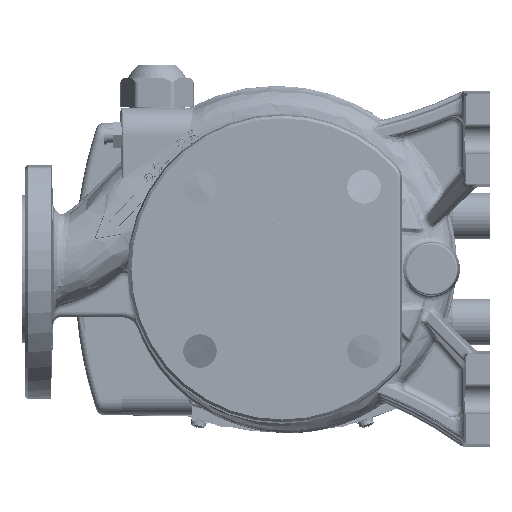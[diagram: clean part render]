
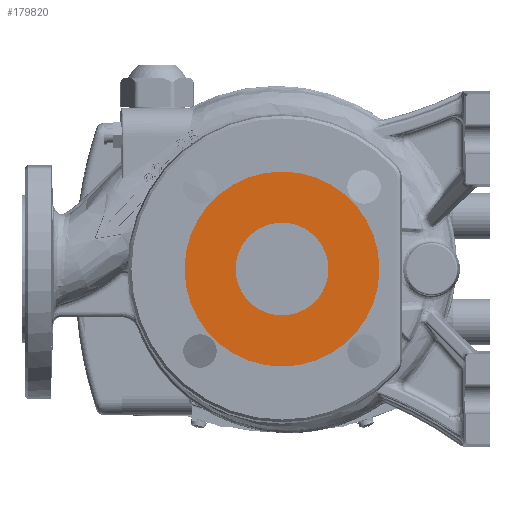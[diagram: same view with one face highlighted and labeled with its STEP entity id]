
A CAD part, left-side view. The second image highlights one B-rep face of the part: STEP entity #179820.
In plain terms, the highlighted planar face has unit normal (-1, 0, 0).
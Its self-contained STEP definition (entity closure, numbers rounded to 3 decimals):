
#1936 = DIRECTION ( 'NONE',  ( 0., 0., -1. ) ) ;
#11684 = DIRECTION ( 'NONE',  ( 1., 0., 0. ) ) ;
#12363 = CARTESIAN_POINT ( 'NONE',  ( -259.764, 139.201, 0. ) ) ;
#26034 = VERTEX_POINT ( 'NONE', #166255 ) ;
#27395 = CARTESIAN_POINT ( 'NONE',  ( -259.764, 139.201, -52.5 ) ) ;
#31444 = DIRECTION ( 'NONE',  ( 1., 0., 0. ) ) ;
#37086 = CARTESIAN_POINT ( 'NONE',  ( -259.764, 139.201, -25. ) ) ;
#38512 = VERTEX_POINT ( 'NONE', #27395 ) ;
#46571 = AXIS2_PLACEMENT_3D ( 'NONE', #186749, #31444, #1936 ) ;
#47027 = AXIS2_PLACEMENT_3D ( 'NONE', #148823, #11684, #80776 ) ;
#53952 = EDGE_CURVE ( 'NONE', #118200, #127968, #190754, .T. ) ;
#56088 = ORIENTED_EDGE ( 'NONE', *, *, #179785, .F. ) ;
#59057 = CARTESIAN_POINT ( 'NONE',  ( -259.764, 139.201, 0. ) ) ;
#62714 = EDGE_LOOP ( 'NONE', ( #143424, #56088 ) ) ;
#62771 = CARTESIAN_POINT ( 'NONE',  ( -259.764, 139.201, 25. ) ) ;
#80776 = DIRECTION ( 'NONE',  ( 0., 0., 1. ) ) ;
#81447 = DIRECTION ( 'NONE',  ( 0., 0., 1. ) ) ;
#88182 = EDGE_LOOP ( 'NONE', ( #98312, #125263 ) ) ;
#90822 = DIRECTION ( 'NONE',  ( 0., 0., -1. ) ) ;
#95314 = AXIS2_PLACEMENT_3D ( 'NONE', #165399, #97353, #81447 ) ;
#96245 = FACE_BOUND ( 'NONE', #88182, .T. ) ;
#97353 = DIRECTION ( 'NONE',  ( -1., 0., 0. ) ) ;
#98312 = ORIENTED_EDGE ( 'NONE', *, *, #171185, .T. ) ;
#98866 = CIRCLE ( 'NONE', #203870, 52.5 ) ;
#108552 = EDGE_CURVE ( 'NONE', #38512, #26034, #112275, .T. ) ;
#112275 = CIRCLE ( 'NONE', #47027, 52.5 ) ;
#113263 = DIRECTION ( 'NONE',  ( 0., 0., 1. ) ) ;
#118200 = VERTEX_POINT ( 'NONE', #62771 ) ;
#125263 = ORIENTED_EDGE ( 'NONE', *, *, #53952, .T. ) ;
#127968 = VERTEX_POINT ( 'NONE', #37086 ) ;
#130270 = DIRECTION ( 'NONE',  ( 1., 0., 0. ) ) ;
#136542 = AXIS2_PLACEMENT_3D ( 'NONE', #59057, #144102, #90822 ) ;
#143424 = ORIENTED_EDGE ( 'NONE', *, *, #108552, .F. ) ;
#144102 = DIRECTION ( 'NONE',  ( 1., 0., 0. ) ) ;
#144366 = CIRCLE ( 'NONE', #46571, 25. ) ;
#148823 = CARTESIAN_POINT ( 'NONE',  ( -259.764, 139.201, 0. ) ) ;
#165399 = CARTESIAN_POINT ( 'NONE',  ( -259.764, 139.201, 0. ) ) ;
#166255 = CARTESIAN_POINT ( 'NONE',  ( -259.764, 139.201, 52.5 ) ) ;
#171185 = EDGE_CURVE ( 'NONE', #127968, #118200, #144366, .T. ) ;
#179785 = EDGE_CURVE ( 'NONE', #26034, #38512, #98866, .T. ) ;
#179820 = ADVANCED_FACE ( 'NONE', ( #200516, #96245 ), #183530, .T. ) ;
#183530 = PLANE ( 'NONE',  #95314 ) ;
#186749 = CARTESIAN_POINT ( 'NONE',  ( -259.764, 139.201, 0. ) ) ;
#190754 = CIRCLE ( 'NONE', #136542, 25. ) ;
#200516 = FACE_OUTER_BOUND ( 'NONE', #62714, .T. ) ;
#203870 = AXIS2_PLACEMENT_3D ( 'NONE', #12363, #130270, #113263 ) ;
